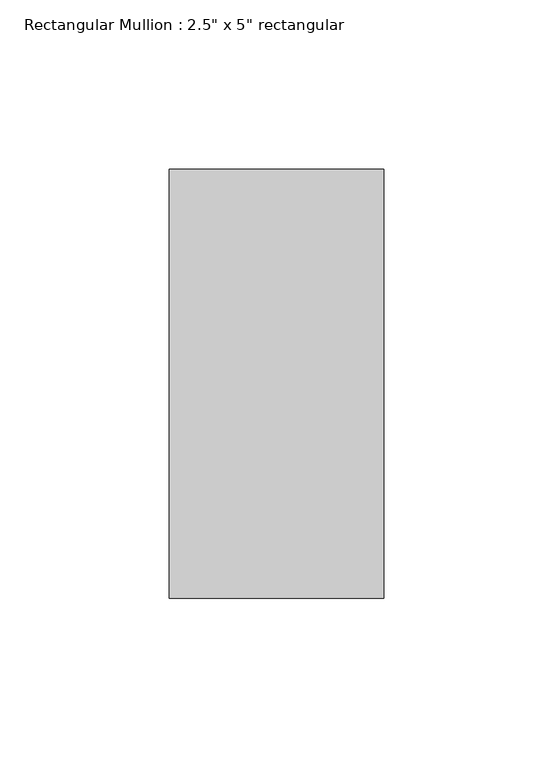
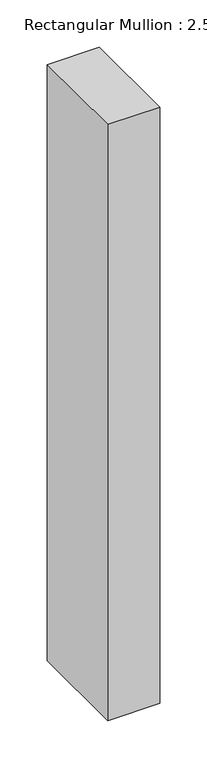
"""IFC4 building model written with IfcOpenShell, lengths in millimetres: member geometry."""

from ifc_helpers import new_model, si_unit, frame, origin, place, context, project, spatial, polyline, outline, extrude, source, transform, mapped, element, save


def member_46f5bc36(model_context):
    return source(origin(), model_context, "Body", "SweptSolid", [
        extrude(outline(polyline([(0.0, 63.5), (0.0, -63.5), (-63.5, -63.5), (-63.5, 63.5), (0.0, 63.5)])), frame((0.0, 0.0, -768.35), z_axis=(0.0, 0.0, 1.0), x_axis=(1.0, 0.0, 0.0)), (0.0, 0.0, 1.0), 768.35),
    ])


if __name__ == "__main__":
    model = new_model("IFC4")
    model_context = context("Model", 3, world=origin())
    ifc_project = project(units=[si_unit("LENGTHUNIT", "METRE", prefix="MILLI")], contexts=[model_context])
    site = spatial("IfcSite", under=ifc_project)
    building = spatial("IfcBuilding", under=site)
    placement = place(None, origin())
    member_shape = member_46f5bc36(model_context)
    element("IfcMember", 1, ObjectType="Rectangular Mullion : 2.5\" x 5\" rectangular", at=placement, inside=building, context=model_context, shape_type="MappedRepresentation", body=[
        mapped(member_shape, transform((0.0, 0.0, 0.0), x_axis=(1.0, 0.0, 0.0), y_axis=(0.0, 1.0, 0.0), z_axis=(0.0, 0.0, 1.0))),
    ])
    save(model, "model.ifc")
